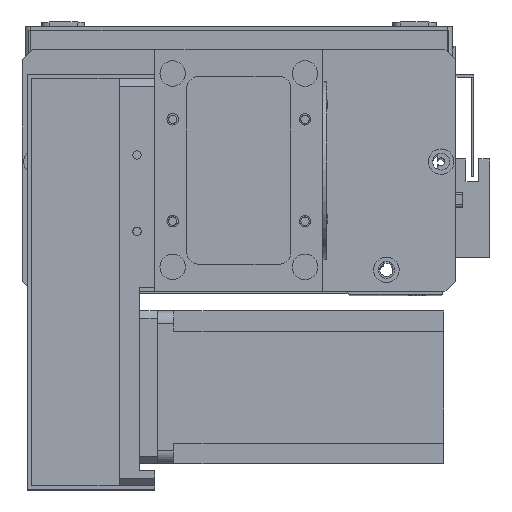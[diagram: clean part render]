
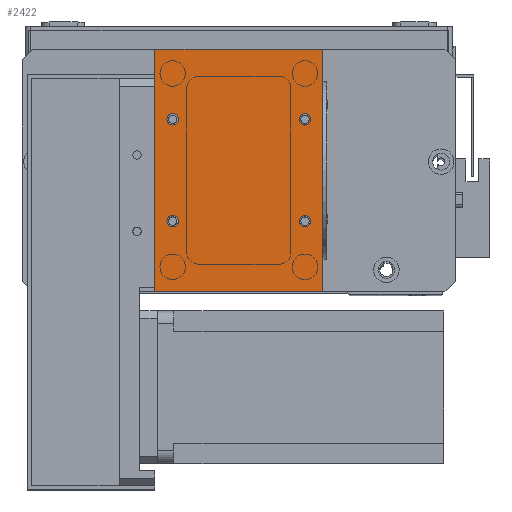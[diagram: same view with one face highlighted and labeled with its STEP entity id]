
A CAD part, top view. The second image highlights one B-rep face of the part: STEP entity #2422.
In plain terms, the highlighted planar face has unit normal (0, 0, 1).
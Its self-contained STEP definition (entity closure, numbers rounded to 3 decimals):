
#151 = CARTESIAN_POINT ( 'NONE',  ( 0., 0., 2. ) ) ;
#285 = CARTESIAN_POINT ( 'NONE',  ( 7., 67.5, 2. ) ) ;
#320 = DIRECTION ( 'NONE',  ( 0., 0., 1. ) ) ;
#326 = VERTEX_POINT ( 'NONE', #3009 ) ;
#504 = ORIENTED_EDGE ( 'NONE', *, *, #24482, .F. ) ;
#1554 = CARTESIAN_POINT ( 'NONE',  ( 0., 0., 2. ) ) ;
#1859 = EDGE_LOOP ( 'NONE', ( #504, #11813 ) ) ;
#1993 = FACE_BOUND ( 'NONE', #1859, .T. ) ;
#1997 = VERTEX_POINT ( 'NONE', #28523 ) ;
#2413 = PLANE ( 'NONE',  #27134 ) ;
#2422 = ADVANCED_FACE ( 'NONE', ( #21016, #15419, #8338, #1993, #26631 ), #2413, .F. ) ;
#2491 = ORIENTED_EDGE ( 'NONE', *, *, #26411, .F. ) ;
#2666 = DIRECTION ( 'NONE',  ( 1., 0., 0. ) ) ;
#2981 = CARTESIAN_POINT ( 'NONE',  ( 56.75, 67.5, 2. ) ) ;
#3005 = VECTOR ( 'NONE', #3952, 1000. ) ;
#3009 = CARTESIAN_POINT ( 'NONE',  ( 4.75, 27.5, 2. ) ) ;
#3014 = CARTESIAN_POINT ( 'NONE',  ( 9.25, 67.5, 2. ) ) ;
#3748 = LINE ( 'NONE', #1554, #3005 ) ;
#3952 = DIRECTION ( 'NONE',  ( 0., -1., 0. ) ) ;
#5008 = CARTESIAN_POINT ( 'NONE',  ( 66., 0., 2. ) ) ;
#5163 = ORIENTED_EDGE ( 'NONE', *, *, #21247, .F. ) ;
#5531 = EDGE_CURVE ( 'NONE', #24456, #30207, #30323, .T. ) ;
#5754 = DIRECTION ( 'NONE',  ( -1., 0., 0. ) ) ;
#6030 = AXIS2_PLACEMENT_3D ( 'NONE', #285, #16965, #2666 ) ;
#6130 = DIRECTION ( 'NONE',  ( 0., 0., 1. ) ) ;
#6780 = CARTESIAN_POINT ( 'NONE',  ( 0., 95., 2. ) ) ;
#6791 = EDGE_CURVE ( 'NONE', #12979, #24456, #3748, .T. ) ;
#6803 = CARTESIAN_POINT ( 'NONE',  ( 59., 27.5, 2. ) ) ;
#6838 = EDGE_LOOP ( 'NONE', ( #16147, #28113, #7379, #11570 ) ) ;
#6952 = VERTEX_POINT ( 'NONE', #16062 ) ;
#7112 = AXIS2_PLACEMENT_3D ( 'NONE', #6803, #23496, #9209 ) ;
#7237 = CARTESIAN_POINT ( 'NONE',  ( 7., 67.5, 2. ) ) ;
#7376 = ORIENTED_EDGE ( 'NONE', *, *, #8430, .F. ) ;
#7379 = ORIENTED_EDGE ( 'NONE', *, *, #17672, .T. ) ;
#8108 = CARTESIAN_POINT ( 'NONE',  ( 9.25, 27.5, 2. ) ) ;
#8338 = FACE_BOUND ( 'NONE', #8395, .T. ) ;
#8395 = EDGE_LOOP ( 'NONE', ( #30279, #10010 ) ) ;
#8430 = EDGE_CURVE ( 'NONE', #29894, #23804, #14455, .T. ) ;
#9209 = DIRECTION ( 'NONE',  ( 1., 0., 0. ) ) ;
#9241 = CARTESIAN_POINT ( 'NONE',  ( 4.75, 67.5, 2. ) ) ;
#9629 = DIRECTION ( 'NONE',  ( 1., 0., 0. ) ) ;
#10010 = ORIENTED_EDGE ( 'NONE', *, *, #15245, .F. ) ;
#10550 = CARTESIAN_POINT ( 'NONE',  ( 59., 67.5, 2. ) ) ;
#10602 = EDGE_CURVE ( 'NONE', #326, #20168, #18712, .T. ) ;
#10632 = DIRECTION ( 'NONE',  ( 0., 0., 1. ) ) ;
#11103 = VERTEX_POINT ( 'NONE', #9241 ) ;
#11116 = LINE ( 'NONE', #12052, #17494 ) ;
#11570 = ORIENTED_EDGE ( 'NONE', *, *, #23052, .T. ) ;
#11813 = ORIENTED_EDGE ( 'NONE', *, *, #10602, .F. ) ;
#12052 = CARTESIAN_POINT ( 'NONE',  ( 0., 95., 2. ) ) ;
#12914 = AXIS2_PLACEMENT_3D ( 'NONE', #10550, #27256, #12949 ) ;
#12939 = CARTESIAN_POINT ( 'NONE',  ( 59., 67.5, 2. ) ) ;
#12949 = DIRECTION ( 'NONE',  ( 1., 0., 0. ) ) ;
#12979 = VERTEX_POINT ( 'NONE', #6780 ) ;
#13827 = VERTEX_POINT ( 'NONE', #3014 ) ;
#14455 = CIRCLE ( 'NONE', #20889, 2.25 ) ;
#14575 = CARTESIAN_POINT ( 'NONE',  ( 59., 27.5, 2. ) ) ;
#15245 = EDGE_CURVE ( 'NONE', #6952, #1997, #27764, .T. ) ;
#15339 = DIRECTION ( 'NONE',  ( 1., 0., 0. ) ) ;
#15419 = FACE_BOUND ( 'NONE', #30240, .T. ) ;
#15480 = ORIENTED_EDGE ( 'NONE', *, *, #23683, .F. ) ;
#16062 = CARTESIAN_POINT ( 'NONE',  ( 56.75, 27.5, 2. ) ) ;
#16147 = ORIENTED_EDGE ( 'NONE', *, *, #6791, .T. ) ;
#16635 = VERTEX_POINT ( 'NONE', #24926 ) ;
#16962 = EDGE_LOOP ( 'NONE', ( #2491, #15480 ) ) ;
#16965 = DIRECTION ( 'NONE',  ( 0., 0., 1. ) ) ;
#16994 = DIRECTION ( 'NONE',  ( 1., 0., 0. ) ) ;
#17000 = DIRECTION ( 'NONE',  ( -1., 0., 0. ) ) ;
#17494 = VECTOR ( 'NONE', #17000, 1000. ) ;
#17623 = CIRCLE ( 'NONE', #18590, 2.25 ) ;
#17672 = EDGE_CURVE ( 'NONE', #30207, #16635, #23304, .T. ) ;
#17964 = CIRCLE ( 'NONE', #12914, 2.25 ) ;
#18590 = AXIS2_PLACEMENT_3D ( 'NONE', #20418, #6130, #22819 ) ;
#18712 = CIRCLE ( 'NONE', #29555, 2.25 ) ;
#18765 = AXIS2_PLACEMENT_3D ( 'NONE', #7237, #23907, #9629 ) ;
#19400 = CIRCLE ( 'NONE', #6030, 2.25 ) ;
#19776 = AXIS2_PLACEMENT_3D ( 'NONE', #14575, #320, #16994 ) ;
#20168 = VERTEX_POINT ( 'NONE', #8108 ) ;
#20418 = CARTESIAN_POINT ( 'NONE',  ( 7., 27.5, 2. ) ) ;
#20853 = EDGE_CURVE ( 'NONE', #1997, #6952, #28002, .T. ) ;
#20889 = AXIS2_PLACEMENT_3D ( 'NONE', #12939, #29661, #15339 ) ;
#21016 = FACE_BOUND ( 'NONE', #16962, .T. ) ;
#21247 = EDGE_CURVE ( 'NONE', #23804, #29894, #17964, .T. ) ;
#21683 = DIRECTION ( 'NONE',  ( 0., 1., 0. ) ) ;
#22461 = VECTOR ( 'NONE', #25377, 1000. ) ;
#22522 = CARTESIAN_POINT ( 'NONE',  ( 0., 0., 2. ) ) ;
#22819 = DIRECTION ( 'NONE',  ( 1., 0., 0. ) ) ;
#23052 = EDGE_CURVE ( 'NONE', #16635, #12979, #11116, .T. ) ;
#23304 = LINE ( 'NONE', #5008, #30429 ) ;
#23496 = DIRECTION ( 'NONE',  ( 0., 0., 1. ) ) ;
#23557 = CARTESIAN_POINT ( 'NONE',  ( 61.25, 67.5, 2. ) ) ;
#23683 = EDGE_CURVE ( 'NONE', #11103, #13827, #27893, .T. ) ;
#23804 = VERTEX_POINT ( 'NONE', #2981 ) ;
#23907 = DIRECTION ( 'NONE',  ( 0., 0., 1. ) ) ;
#24456 = VERTEX_POINT ( 'NONE', #22522 ) ;
#24482 = EDGE_CURVE ( 'NONE', #20168, #326, #17623, .T. ) ;
#24926 = CARTESIAN_POINT ( 'NONE',  ( 66., 95., 2. ) ) ;
#24929 = CARTESIAN_POINT ( 'NONE',  ( 7., 27.5, 2. ) ) ;
#25377 = DIRECTION ( 'NONE',  ( 1., 0., 0. ) ) ;
#26411 = EDGE_CURVE ( 'NONE', #13827, #11103, #19400, .T. ) ;
#26631 = FACE_OUTER_BOUND ( 'NONE', #6838, .T. ) ;
#27134 = AXIS2_PLACEMENT_3D ( 'NONE', #151, #30487, #5754 ) ;
#27256 = DIRECTION ( 'NONE',  ( 0., 0., 1. ) ) ;
#27343 = DIRECTION ( 'NONE',  ( 1., 0., 0. ) ) ;
#27764 = CIRCLE ( 'NONE', #19776, 2.25 ) ;
#27893 = CIRCLE ( 'NONE', #18765, 2.25 ) ;
#28002 = CIRCLE ( 'NONE', #7112, 2.25 ) ;
#28113 = ORIENTED_EDGE ( 'NONE', *, *, #5531, .T. ) ;
#28523 = CARTESIAN_POINT ( 'NONE',  ( 61.25, 27.5, 2. ) ) ;
#29213 = CARTESIAN_POINT ( 'NONE',  ( 66., 0., 2. ) ) ;
#29555 = AXIS2_PLACEMENT_3D ( 'NONE', #24929, #10632, #27343 ) ;
#29661 = DIRECTION ( 'NONE',  ( 0., 0., 1. ) ) ;
#29894 = VERTEX_POINT ( 'NONE', #23557 ) ;
#30101 = CARTESIAN_POINT ( 'NONE',  ( 0., 0., 2. ) ) ;
#30207 = VERTEX_POINT ( 'NONE', #29213 ) ;
#30240 = EDGE_LOOP ( 'NONE', ( #7376, #5163 ) ) ;
#30279 = ORIENTED_EDGE ( 'NONE', *, *, #20853, .F. ) ;
#30323 = LINE ( 'NONE', #30101, #22461 ) ;
#30429 = VECTOR ( 'NONE', #21683, 1000. ) ;
#30487 = DIRECTION ( 'NONE',  ( 0., 0., -1. ) ) ;
